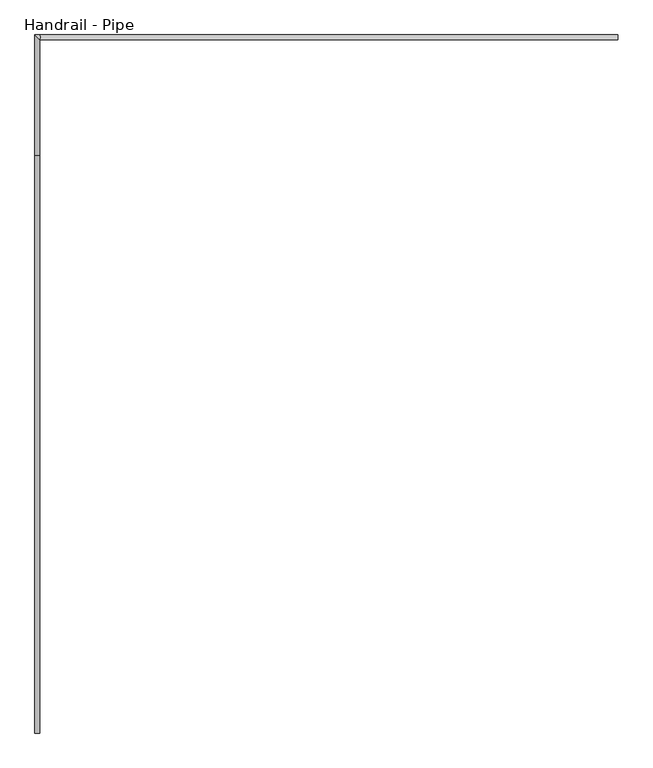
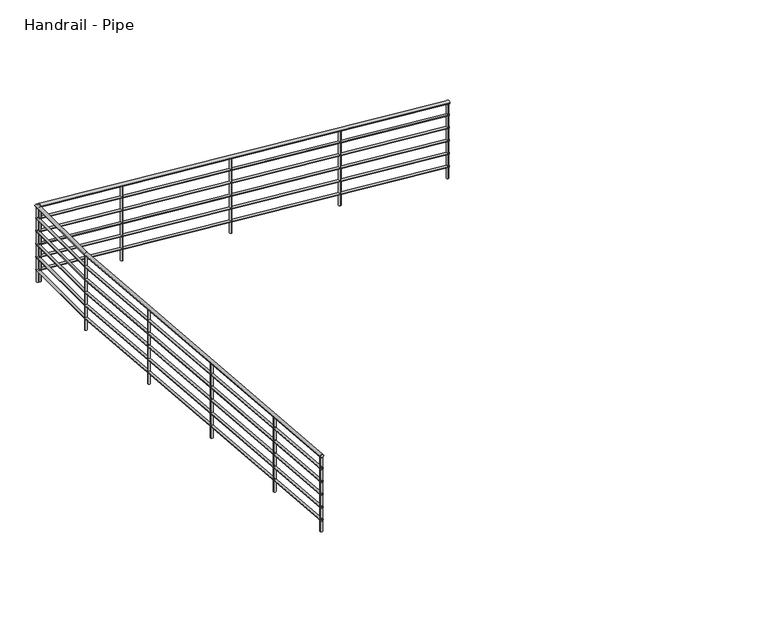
"""IFC4 building model written with IfcOpenShell, lengths in millimetres: railing geometry, Handrail - Pipe."""

from ifc_helpers import new_model, si_unit, point, frame, frame_2d, origin, place, context, project, spatial, circle_curve, ellipse_curve, trimmed, segment, composite_curve, outline, extrude, source, transform, mapped, element, save
from ifc_brep_helpers import plane_surface, cylinder_surface, advanced_brep


def handrail_pipe_39028d69(model_context):
    return source(origin(), model_context, "Body", "SolidModel", [
        advanced_brep(
        [(17900.9421922, 23237.4984382, 133.2839686), (17900.9421922, 23275.5984382, 133.2839686), (13328.1498155, 23275.5984382, 514.35), (13328.1498155, 23237.4984382, 514.35), (13284.4921922, 23275.5984382, 514.35), (13322.5921922, 23237.4984382, 514.35), (13284.4921922, 22320.8938342, 514.35), (13322.5921922, 22320.8938342, 514.35), (13322.5921922, 17749.6862109, 895.2839686), (13284.4921922, 17749.6862109, 895.2839686)],
        [
            (0, 1, ellipse_curve(frame((17900.9421922, 23256.5484382, 133.2839686), z_axis=(1.0, 0.0, 0.0), x_axis=(0.0, 0.0, -1.0)), 19.1160314, 19.05)),
            (1, 0, ellipse_curve(frame((17900.9421922, 23256.5484382, 133.2839686), z_axis=(1.0, 0.0, 0.0), x_axis=(0.0, 0.0, -1.0)), 19.1160314, 19.05)),
            (1, 2),
            (2, 3, ellipse_curve(frame((13328.1498155, 23256.5484382, 514.35), z_axis=(0.9991360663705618, 0.0, -0.04155864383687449), x_axis=(-0.04155864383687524, 0.0, -0.9991360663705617)), 19.0664722, 19.05)),
            (3, 0),
            (3, 2, ellipse_curve(frame((13328.1498155, 23256.5484382, 514.35), z_axis=(0.9991360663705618, 0.0, -0.04155864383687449), x_axis=(-0.04155864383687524, 0.0, -0.9991360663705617)), 19.0664722, 19.05)),
            (2, 4),
            (4, 5, ellipse_curve(frame((13303.5421922, 23256.5484382, 514.35), z_axis=(0.7071067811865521, 0.7071067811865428, 0.0), x_axis=(0.7071067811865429, -0.7071067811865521, 0.0)), 26.9407684, 19.05)),
            (5, 3),
            (5, 4, ellipse_curve(frame((13303.5421922, 23256.5484382, 514.35), z_axis=(0.7071067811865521, 0.7071067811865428, 0.0), x_axis=(0.7071067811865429, -0.7071067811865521, 0.0)), 26.9407684, 19.05)),
            (4, 6),
            (6, 7, ellipse_curve(frame((13303.5421922, 22320.8938342, 514.35), z_axis=(0.0, 0.9991360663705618, -0.04155864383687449), x_axis=(0.0, 0.04155864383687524, 0.9991360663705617)), 19.0664722, 19.05)),
            (7, 5),
            (7, 6, ellipse_curve(frame((13303.5421922, 22320.8938342, 514.35), z_axis=(0.0, 0.9991360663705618, -0.04155864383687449), x_axis=(0.0, 0.04155864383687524, 0.9991360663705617)), 19.0664722, 19.05)),
            (8, 9, ellipse_curve(frame((13303.5421922, 17749.6862109, 895.2839686), z_axis=(0.0, -1.0, 0.0), x_axis=(0.0, 0.0, -1.0)), 19.1160314, 19.05)),
            (9, 8, ellipse_curve(frame((13303.5421922, 17749.6862109, 895.2839686), z_axis=(0.0, -1.0, 0.0), x_axis=(0.0, 0.0, -1.0)), 19.1160314, 19.05)),
            (6, 9),
            (8, 7),
        ],
        [
            plane_surface(frame((17900.9421922, 23256.5484382, 152.4), z_axis=(1.0, 0.0, 0.0), x_axis=(0.0, -1.0, 0.0))),
            cylinder_surface(frame((17899.3601758, 23256.5484382, 133.4158033), z_axis=(0.9965457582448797, 0.0, -0.08304547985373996), x_axis=(0.0, 1.0, 0.0)), 19.05),
            cylinder_surface(frame((13328.9421922, 23256.5484382, 514.35), z_axis=(1.0, 0.0, 0.0), x_axis=(0.0, 1.0, 0.0)), 19.05),
            cylinder_surface(frame((13303.5421922, 23256.5484382, 514.35), z_axis=(0.0, 1.0, 0.0), x_axis=(-1.0, 0.0, 0.0)), 19.05),
            plane_surface(frame((13303.5421922, 17749.6862109, 914.4), z_axis=(0.0, -1.0, 0.0), x_axis=(0.0, 0.0, -1.0))),
            cylinder_surface(frame((13303.5421922, 22320.1041945, 514.4158033), z_axis=(0.0, 0.9965457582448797, -0.08304547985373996), x_axis=(-1.0, 0.0, 0.0)), 19.05),
        ],
        [
            (0, [[1, 2]]),
            (1, [[-2, 3, 4, 5]]),
            (1, [[-1, -5, 6, -3]]),
            (2, [[-4, 7, 8, 9]]),
            (2, [[-6, -9, 10, -7]]),
            (3, [[-8, 11, 12, 13]]),
            (3, [[-10, -13, 14, -11]]),
            (4, [[15, 16]]),
            (5, [[-12, 17, -15, 18]]),
            (5, [[-14, -18, -16, -17]]),
        ],
    ),
        advanced_brep(
        [(17900.9421922, 23243.8484382, -12.7440209), (17900.9421922, 23269.2484382, -12.7440209), (13328.413941, 23269.2484382, 368.3), (13328.413941, 23243.8484382, 368.3), (13290.8421922, 23269.2484382, 368.3), (13316.2421922, 23243.8484382, 368.3), (13290.8421922, 22321.1579598, 368.3), (13316.2421922, 22321.1579598, 368.3), (13316.2421922, 17749.6862109, 749.2559791), (13290.8421922, 17749.6862109, 749.2559791)],
        [
            (0, 1, ellipse_curve(frame((17900.9421922, 23256.5484382, -12.7440209), z_axis=(1.0, 0.0, 0.0), x_axis=(0.0, 0.0, -1.0)), 12.7440209, 12.7)),
            (1, 0, ellipse_curve(frame((17900.9421922, 23256.5484382, -12.7440209), z_axis=(1.0, 0.0, 0.0), x_axis=(0.0, 0.0, -1.0)), 12.7440209, 12.7)),
            (1, 2),
            (2, 3, ellipse_curve(frame((13328.413941, 23256.5484382, 368.3), z_axis=(0.9991360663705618, 0.0, -0.04155864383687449), x_axis=(-0.04155864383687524, 0.0, -0.9991360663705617)), 12.7109814, 12.7)),
            (3, 0),
            (3, 2, ellipse_curve(frame((13328.413941, 23256.5484382, 368.3), z_axis=(0.9991360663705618, 0.0, -0.04155864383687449), x_axis=(-0.04155864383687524, 0.0, -0.9991360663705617)), 12.7109814, 12.7)),
            (2, 4),
            (4, 5, ellipse_curve(frame((13303.5421922, 23256.5484382, 368.3), z_axis=(0.7071067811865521, 0.7071067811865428, 0.0), x_axis=(0.7071067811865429, -0.7071067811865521, 0.0)), 17.9605122, 12.7)),
            (5, 3),
            (5, 4, ellipse_curve(frame((13303.5421922, 23256.5484382, 368.3), z_axis=(0.7071067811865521, 0.7071067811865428, 0.0), x_axis=(0.7071067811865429, -0.7071067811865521, 0.0)), 17.9605122, 12.7)),
            (4, 6),
            (6, 7, ellipse_curve(frame((13303.5421922, 22321.1579598, 368.3), z_axis=(0.0, 0.9991360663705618, -0.04155864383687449), x_axis=(0.0, 0.04155864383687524, 0.9991360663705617)), 12.7109814, 12.7)),
            (7, 5),
            (7, 6, ellipse_curve(frame((13303.5421922, 22321.1579598, 368.3), z_axis=(0.0, 0.9991360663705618, -0.04155864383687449), x_axis=(0.0, 0.04155864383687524, 0.9991360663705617)), 12.7109814, 12.7)),
            (8, 9, ellipse_curve(frame((13303.5421922, 17749.6862109, 749.2559791), z_axis=(0.0, -1.0, 0.0), x_axis=(0.0, 0.0, -1.0)), 12.7440209, 12.7)),
            (9, 8, ellipse_curve(frame((13303.5421922, 17749.6862109, 749.2559791), z_axis=(0.0, -1.0, 0.0), x_axis=(0.0, 0.0, -1.0)), 12.7440209, 12.7)),
            (6, 9),
            (8, 7),
        ],
        [
            plane_surface(frame((17900.9421922, 23256.5484382, 0.0), z_axis=(1.0, 0.0, 0.0), x_axis=(0.0, -1.0, 0.0))),
            cylinder_surface(frame((17899.8875146, 23256.5484382, -12.6561311), z_axis=(0.9965457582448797, 0.0, -0.08304547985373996), x_axis=(0.0, 1.0, 0.0)), 12.7),
            cylinder_surface(frame((13328.9421922, 23256.5484382, 368.3), z_axis=(1.0, 0.0, 0.0), x_axis=(0.0, 1.0, 0.0)), 12.7),
            cylinder_surface(frame((13303.5421922, 23256.5484382, 368.3), z_axis=(0.0, 1.0, 0.0), x_axis=(-1.0, 0.0, 0.0)), 12.7),
            plane_surface(frame((13303.5421922, 17749.6862109, 762.0), z_axis=(0.0, -1.0, 0.0), x_axis=(0.0, 0.0, -1.0))),
            cylinder_surface(frame((13303.5421922, 22320.6315333, 368.3438689), z_axis=(0.0, 0.9965457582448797, -0.08304547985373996), x_axis=(-1.0, 0.0, 0.0)), 12.7),
        ],
        [
            (0, [[1, 2]]),
            (1, [[-2, 3, 4, 5]]),
            (1, [[-1, -5, 6, -3]]),
            (2, [[-4, 7, 8, 9]]),
            (2, [[-6, -9, 10, -7]]),
            (3, [[-8, 11, 12, 13]]),
            (3, [[-10, -13, 14, -11]]),
            (4, [[15, 16]]),
            (5, [[-12, 17, -15, 18]]),
            (5, [[-14, -18, -16, -17]]),
        ],
    ),
        advanced_brep(
        [(17900.9421922, 23243.8484382, -165.1440209), (17900.9421922, 23269.2484382, -165.1440209), (13328.413941, 23269.2484382, 215.9), (13328.413941, 23243.8484382, 215.9), (13290.8421922, 23269.2484382, 215.9), (13316.2421922, 23243.8484382, 215.9), (13290.8421922, 22321.1579598, 215.9), (13316.2421922, 22321.1579598, 215.9), (13316.2421922, 17749.6862109, 596.8559791), (13290.8421922, 17749.6862109, 596.8559791)],
        [
            (0, 1, ellipse_curve(frame((17900.9421922, 23256.5484382, -165.1440209), z_axis=(1.0, 0.0, 0.0), x_axis=(0.0, 0.0, -1.0)), 12.7440209, 12.7)),
            (1, 0, ellipse_curve(frame((17900.9421922, 23256.5484382, -165.1440209), z_axis=(1.0, 0.0, 0.0), x_axis=(0.0, 0.0, -1.0)), 12.7440209, 12.7)),
            (1, 2),
            (2, 3, ellipse_curve(frame((13328.413941, 23256.5484382, 215.9), z_axis=(0.9991360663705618, 0.0, -0.04155864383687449), x_axis=(-0.04155864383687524, 0.0, -0.9991360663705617)), 12.7109814, 12.7)),
            (3, 0),
            (3, 2, ellipse_curve(frame((13328.413941, 23256.5484382, 215.9), z_axis=(0.9991360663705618, 0.0, -0.04155864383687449), x_axis=(-0.04155864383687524, 0.0, -0.9991360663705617)), 12.7109814, 12.7)),
            (2, 4),
            (4, 5, ellipse_curve(frame((13303.5421922, 23256.5484382, 215.9), z_axis=(0.7071067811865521, 0.7071067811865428, 0.0), x_axis=(0.7071067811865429, -0.7071067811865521, 0.0)), 17.9605122, 12.7)),
            (5, 3),
            (5, 4, ellipse_curve(frame((13303.5421922, 23256.5484382, 215.9), z_axis=(0.7071067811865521, 0.7071067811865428, 0.0), x_axis=(0.7071067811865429, -0.7071067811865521, 0.0)), 17.9605122, 12.7)),
            (4, 6),
            (6, 7, ellipse_curve(frame((13303.5421922, 22321.1579598, 215.9), z_axis=(0.0, 0.9991360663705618, -0.04155864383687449), x_axis=(0.0, 0.04155864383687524, 0.9991360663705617)), 12.7109814, 12.7)),
            (7, 5),
            (7, 6, ellipse_curve(frame((13303.5421922, 22321.1579598, 215.9), z_axis=(0.0, 0.9991360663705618, -0.04155864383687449), x_axis=(0.0, 0.04155864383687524, 0.9991360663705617)), 12.7109814, 12.7)),
            (8, 9, ellipse_curve(frame((13303.5421922, 17749.6862109, 596.8559791), z_axis=(0.0, -1.0, 0.0), x_axis=(0.0, 0.0, -1.0)), 12.7440209, 12.7)),
            (9, 8, ellipse_curve(frame((13303.5421922, 17749.6862109, 596.8559791), z_axis=(0.0, -1.0, 0.0), x_axis=(0.0, 0.0, -1.0)), 12.7440209, 12.7)),
            (6, 9),
            (8, 7),
        ],
        [
            plane_surface(frame((17900.9421922, 23256.5484382, -152.4), z_axis=(1.0, 0.0, 0.0), x_axis=(0.0, -1.0, 0.0))),
            cylinder_surface(frame((17899.8875146, 23256.5484382, -165.0561311), z_axis=(0.9965457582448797, 0.0, -0.08304547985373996), x_axis=(0.0, 1.0, 0.0)), 12.7),
            cylinder_surface(frame((13328.9421922, 23256.5484382, 215.9), z_axis=(1.0, 0.0, 0.0), x_axis=(0.0, 1.0, 0.0)), 12.7),
            cylinder_surface(frame((13303.5421922, 23256.5484382, 215.9), z_axis=(0.0, 1.0, 0.0), x_axis=(-1.0, 0.0, 0.0)), 12.7),
            plane_surface(frame((13303.5421922, 17749.6862109, 609.6), z_axis=(0.0, -1.0, 0.0), x_axis=(0.0, 0.0, -1.0))),
            cylinder_surface(frame((13303.5421922, 22320.6315333, 215.9438689), z_axis=(0.0, 0.9965457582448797, -0.08304547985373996), x_axis=(-1.0, 0.0, 0.0)), 12.7),
        ],
        [
            (0, [[1, 2]]),
            (1, [[-2, 3, 4, 5]]),
            (1, [[-1, -5, 6, -3]]),
            (2, [[-4, 7, 8, 9]]),
            (2, [[-6, -9, 10, -7]]),
            (3, [[-8, 11, 12, 13]]),
            (3, [[-10, -13, 14, -11]]),
            (4, [[15, 16]]),
            (5, [[-12, 17, -15, 18]]),
            (5, [[-14, -18, -16, -17]]),
        ],
    ),
        advanced_brep(
        [(17900.9421922, 23243.8484382, -317.5440209), (17900.9421922, 23269.2484382, -317.5440209), (13328.413941, 23269.2484382, 63.5), (13328.413941, 23243.8484382, 63.5), (13290.8421922, 23269.2484382, 63.5), (13316.2421922, 23243.8484382, 63.5), (13290.8421922, 22321.1579598, 63.5), (13316.2421922, 22321.1579598, 63.5), (13316.2421922, 17749.6862109, 444.4559791), (13290.8421922, 17749.6862109, 444.4559791)],
        [
            (0, 1, ellipse_curve(frame((17900.9421922, 23256.5484382, -317.5440209), z_axis=(1.0, 0.0, 0.0), x_axis=(0.0, 0.0, -1.0)), 12.7440209, 12.7)),
            (1, 0, ellipse_curve(frame((17900.9421922, 23256.5484382, -317.5440209), z_axis=(1.0, 0.0, 0.0), x_axis=(0.0, 0.0, -1.0)), 12.7440209, 12.7)),
            (1, 2),
            (2, 3, ellipse_curve(frame((13328.413941, 23256.5484382, 63.5), z_axis=(0.9991360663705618, 0.0, -0.04155864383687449), x_axis=(-0.04155864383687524, 0.0, -0.9991360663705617)), 12.7109814, 12.7)),
            (3, 0),
            (3, 2, ellipse_curve(frame((13328.413941, 23256.5484382, 63.5), z_axis=(0.9991360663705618, 0.0, -0.04155864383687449), x_axis=(-0.04155864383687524, 0.0, -0.9991360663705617)), 12.7109814, 12.7)),
            (2, 4),
            (4, 5, ellipse_curve(frame((13303.5421922, 23256.5484382, 63.5), z_axis=(0.7071067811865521, 0.7071067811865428, 0.0), x_axis=(0.7071067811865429, -0.7071067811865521, 0.0)), 17.9605122, 12.7)),
            (5, 3),
            (5, 4, ellipse_curve(frame((13303.5421922, 23256.5484382, 63.5), z_axis=(0.7071067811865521, 0.7071067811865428, 0.0), x_axis=(0.7071067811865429, -0.7071067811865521, 0.0)), 17.9605122, 12.7)),
            (4, 6),
            (6, 7, ellipse_curve(frame((13303.5421922, 22321.1579598, 63.5), z_axis=(0.0, 0.9991360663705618, -0.04155864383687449), x_axis=(0.0, 0.04155864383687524, 0.9991360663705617)), 12.7109814, 12.7)),
            (7, 5),
            (7, 6, ellipse_curve(frame((13303.5421922, 22321.1579598, 63.5), z_axis=(0.0, 0.9991360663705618, -0.04155864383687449), x_axis=(0.0, 0.04155864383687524, 0.9991360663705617)), 12.7109814, 12.7)),
            (8, 9, ellipse_curve(frame((13303.5421922, 17749.6862109, 444.4559791), z_axis=(0.0, -1.0, 0.0), x_axis=(0.0, 0.0, -1.0)), 12.7440209, 12.7)),
            (9, 8, ellipse_curve(frame((13303.5421922, 17749.6862109, 444.4559791), z_axis=(0.0, -1.0, 0.0), x_axis=(0.0, 0.0, -1.0)), 12.7440209, 12.7)),
            (6, 9),
            (8, 7),
        ],
        [
            plane_surface(frame((17900.9421922, 23256.5484382, -304.8), z_axis=(1.0, 0.0, 0.0), x_axis=(0.0, -1.0, 0.0))),
            cylinder_surface(frame((17899.8875146, 23256.5484382, -317.4561311), z_axis=(0.9965457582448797, 0.0, -0.08304547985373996), x_axis=(0.0, 1.0, 0.0)), 12.7),
            cylinder_surface(frame((13328.9421922, 23256.5484382, 63.5), z_axis=(1.0, 0.0, 0.0), x_axis=(0.0, 1.0, 0.0)), 12.7),
            cylinder_surface(frame((13303.5421922, 23256.5484382, 63.5), z_axis=(0.0, 1.0, 0.0), x_axis=(-1.0, 0.0, 0.0)), 12.7),
            plane_surface(frame((13303.5421922, 17749.6862109, 457.2), z_axis=(0.0, -1.0, 0.0), x_axis=(0.0, 0.0, -1.0))),
            cylinder_surface(frame((13303.5421922, 22320.6315333, 63.5438689), z_axis=(0.0, 0.9965457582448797, -0.08304547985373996), x_axis=(-1.0, 0.0, 0.0)), 12.7),
        ],
        [
            (0, [[1, 2]]),
            (1, [[-2, 3, 4, 5]]),
            (1, [[-1, -5, 6, -3]]),
            (2, [[-4, 7, 8, 9]]),
            (2, [[-6, -9, 10, -7]]),
            (3, [[-8, 11, 12, 13]]),
            (3, [[-10, -13, 14, -11]]),
            (4, [[15, 16]]),
            (5, [[-12, 17, -15, 18]]),
            (5, [[-14, -18, -16, -17]]),
        ],
    ),
        advanced_brep(
        [(17900.9421922, 23243.8484382, -469.9440209), (17900.9421922, 23269.2484382, -469.9440209), (13328.413941, 23269.2484382, -88.9), (13328.413941, 23243.8484382, -88.9), (13290.8421922, 23269.2484382, -88.9), (13316.2421922, 23243.8484382, -88.9), (13290.8421922, 22321.1579598, -88.9), (13316.2421922, 22321.1579598, -88.9), (13316.2421922, 17749.6862109, 292.0559791), (13290.8421922, 17749.6862109, 292.0559791)],
        [
            (0, 1, ellipse_curve(frame((17900.9421922, 23256.5484382, -469.9440209), z_axis=(1.0, 0.0, 0.0), x_axis=(0.0, 0.0, -1.0)), 12.7440209, 12.7)),
            (1, 0, ellipse_curve(frame((17900.9421922, 23256.5484382, -469.9440209), z_axis=(1.0, 0.0, 0.0), x_axis=(0.0, 0.0, -1.0)), 12.7440209, 12.7)),
            (1, 2),
            (2, 3, ellipse_curve(frame((13328.413941, 23256.5484382, -88.9), z_axis=(0.9991360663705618, 0.0, -0.04155864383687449), x_axis=(-0.04155864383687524, 0.0, -0.9991360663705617)), 12.7109814, 12.7)),
            (3, 0),
            (3, 2, ellipse_curve(frame((13328.413941, 23256.5484382, -88.9), z_axis=(0.9991360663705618, 0.0, -0.04155864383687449), x_axis=(-0.04155864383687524, 0.0, -0.9991360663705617)), 12.7109814, 12.7)),
            (2, 4),
            (4, 5, ellipse_curve(frame((13303.5421922, 23256.5484382, -88.9), z_axis=(0.7071067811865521, 0.7071067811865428, 0.0), x_axis=(0.7071067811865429, -0.7071067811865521, 0.0)), 17.9605122, 12.7)),
            (5, 3),
            (5, 4, ellipse_curve(frame((13303.5421922, 23256.5484382, -88.9), z_axis=(0.7071067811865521, 0.7071067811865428, 0.0), x_axis=(0.7071067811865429, -0.7071067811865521, 0.0)), 17.9605122, 12.7)),
            (4, 6),
            (6, 7, ellipse_curve(frame((13303.5421922, 22321.1579598, -88.9), z_axis=(0.0, 0.9991360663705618, -0.04155864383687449), x_axis=(0.0, 0.04155864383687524, 0.9991360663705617)), 12.7109814, 12.7)),
            (7, 5),
            (7, 6, ellipse_curve(frame((13303.5421922, 22321.1579598, -88.9), z_axis=(0.0, 0.9991360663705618, -0.04155864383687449), x_axis=(0.0, 0.04155864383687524, 0.9991360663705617)), 12.7109814, 12.7)),
            (8, 9, ellipse_curve(frame((13303.5421922, 17749.6862109, 292.0559791), z_axis=(0.0, -1.0, 0.0), x_axis=(0.0, 0.0, -1.0)), 12.7440209, 12.7)),
            (9, 8, ellipse_curve(frame((13303.5421922, 17749.6862109, 292.0559791), z_axis=(0.0, -1.0, 0.0), x_axis=(0.0, 0.0, -1.0)), 12.7440209, 12.7)),
            (6, 9),
            (8, 7),
        ],
        [
            plane_surface(frame((17900.9421922, 23256.5484382, -457.2), z_axis=(1.0, 0.0, 0.0), x_axis=(0.0, -1.0, 0.0))),
            cylinder_surface(frame((17899.8875146, 23256.5484382, -469.8561311), z_axis=(0.9965457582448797, 0.0, -0.08304547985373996), x_axis=(0.0, 1.0, 0.0)), 12.7),
            cylinder_surface(frame((13328.9421922, 23256.5484382, -88.9), z_axis=(1.0, 0.0, 0.0), x_axis=(0.0, 1.0, 0.0)), 12.7),
            cylinder_surface(frame((13303.5421922, 23256.5484382, -88.9), z_axis=(0.0, 1.0, 0.0), x_axis=(-1.0, 0.0, 0.0)), 12.7),
            plane_surface(frame((13303.5421922, 17749.6862109, 304.8), z_axis=(0.0, -1.0, 0.0), x_axis=(0.0, 0.0, -1.0))),
            cylinder_surface(frame((13303.5421922, 22320.6315333, -88.8561311), z_axis=(0.0, 0.9965457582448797, -0.08304547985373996), x_axis=(-1.0, 0.0, 0.0)), 12.7),
        ],
        [
            (0, [[1, 2]]),
            (1, [[-2, 3, 4, 5]]),
            (1, [[-1, -5, 6, -3]]),
            (2, [[-4, 7, 8, 9]]),
            (2, [[-6, -9, 10, -7]]),
            (3, [[-8, 11, 12, 13]]),
            (3, [[-10, -13, 14, -11]]),
            (4, [[15, 16]]),
            (5, [[-12, 17, -15, 18]]),
            (5, [[-14, -18, -16, -17]]),
        ],
    ),
        advanced_brep(
        [(17900.9421922, 23243.8484382, -622.3440209), (17900.9421922, 23269.2484382, -622.3440209), (13328.413941, 23269.2484382, -241.3), (13328.413941, 23243.8484382, -241.3), (13290.8421922, 23269.2484382, -241.3), (13316.2421922, 23243.8484382, -241.3), (13290.8421922, 22321.1579598, -241.3), (13316.2421922, 22321.1579598, -241.3), (13316.2421922, 17749.6862109, 139.6559791), (13290.8421922, 17749.6862109, 139.6559791)],
        [
            (0, 1, ellipse_curve(frame((17900.9421922, 23256.5484382, -622.3440209), z_axis=(1.0, 0.0, 0.0), x_axis=(0.0, 0.0, -1.0)), 12.7440209, 12.7)),
            (1, 0, ellipse_curve(frame((17900.9421922, 23256.5484382, -622.3440209), z_axis=(1.0, 0.0, 0.0), x_axis=(0.0, 0.0, -1.0)), 12.7440209, 12.7)),
            (1, 2),
            (2, 3, ellipse_curve(frame((13328.413941, 23256.5484382, -241.3), z_axis=(0.9991360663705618, 0.0, -0.04155864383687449), x_axis=(-0.04155864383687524, 0.0, -0.9991360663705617)), 12.7109814, 12.7)),
            (3, 0),
            (3, 2, ellipse_curve(frame((13328.413941, 23256.5484382, -241.3), z_axis=(0.9991360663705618, 0.0, -0.04155864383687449), x_axis=(-0.04155864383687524, 0.0, -0.9991360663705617)), 12.7109814, 12.7)),
            (2, 4),
            (4, 5, ellipse_curve(frame((13303.5421922, 23256.5484382, -241.3), z_axis=(0.7071067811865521, 0.7071067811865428, 0.0), x_axis=(0.7071067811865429, -0.7071067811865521, 0.0)), 17.9605122, 12.7)),
            (5, 3),
            (5, 4, ellipse_curve(frame((13303.5421922, 23256.5484382, -241.3), z_axis=(0.7071067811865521, 0.7071067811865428, 0.0), x_axis=(0.7071067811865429, -0.7071067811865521, 0.0)), 17.9605122, 12.7)),
            (4, 6),
            (6, 7, ellipse_curve(frame((13303.5421922, 22321.1579598, -241.3), z_axis=(0.0, 0.9991360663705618, -0.04155864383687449), x_axis=(0.0, 0.04155864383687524, 0.9991360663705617)), 12.7109814, 12.7)),
            (7, 5),
            (7, 6, ellipse_curve(frame((13303.5421922, 22321.1579598, -241.3), z_axis=(0.0, 0.9991360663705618, -0.04155864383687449), x_axis=(0.0, 0.04155864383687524, 0.9991360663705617)), 12.7109814, 12.7)),
            (8, 9, ellipse_curve(frame((13303.5421922, 17749.6862109, 139.6559791), z_axis=(0.0, -1.0, 0.0), x_axis=(0.0, 0.0, -1.0)), 12.7440209, 12.7)),
            (9, 8, ellipse_curve(frame((13303.5421922, 17749.6862109, 139.6559791), z_axis=(0.0, -1.0, 0.0), x_axis=(0.0, 0.0, -1.0)), 12.7440209, 12.7)),
            (6, 9),
            (8, 7),
        ],
        [
            plane_surface(frame((17900.9421922, 23256.5484382, -609.6), z_axis=(1.0, 0.0, 0.0), x_axis=(0.0, -1.0, 0.0))),
            cylinder_surface(frame((17899.8875146, 23256.5484382, -622.2561311), z_axis=(0.9965457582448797, 0.0, -0.08304547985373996), x_axis=(0.0, 1.0, 0.0)), 12.7),
            cylinder_surface(frame((13328.9421922, 23256.5484382, -241.3), z_axis=(1.0, 0.0, 0.0), x_axis=(0.0, 1.0, 0.0)), 12.7),
            cylinder_surface(frame((13303.5421922, 23256.5484382, -241.3), z_axis=(0.0, 1.0, 0.0), x_axis=(-1.0, 0.0, 0.0)), 12.7),
            plane_surface(frame((13303.5421922, 17749.6862109, 152.4), z_axis=(0.0, -1.0, 0.0), x_axis=(0.0, 0.0, -1.0))),
            cylinder_surface(frame((13303.5421922, 22320.6315333, -241.2561311), z_axis=(0.0, 0.9965457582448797, -0.08304547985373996), x_axis=(-1.0, 0.0, 0.0)), 12.7),
        ],
        [
            (0, [[1, 2]]),
            (1, [[-2, 3, 4, 5]]),
            (1, [[-1, -5, 6, -3]]),
            (2, [[-4, 7, 8, 9]]),
            (2, [[-6, -9, 10, -7]]),
            (3, [[-8, 11, 12, 13]]),
            (3, [[-10, -13, 14, -11]]),
            (4, [[15, 16]]),
            (5, [[-12, 17, -15, 18]]),
            (5, [[-14, -18, -16, -17]]),
        ],
    ),
        advanced_brep(
        [(13290.8421922, 18664.0862109, 799.9679372), (13290.8421922, 18664.0862109, -76.2), (13316.2421922, 18664.0862109, -76.2), (13316.2421922, 18664.0862109, 799.9679372)],
        [
            (0, 1),
            (1, 2, ellipse_curve(frame((13303.5421922, 18664.0862109, -76.2), z_axis=(0.0, 0.08304547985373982, 0.9965457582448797), x_axis=(0.0, -0.9965457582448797, 0.08304547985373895)), 12.7440209, 12.7)),
            (2, 3),
            (3, 0, ellipse_curve(frame((13303.5421922, 18664.0862109, 799.9679372), z_axis=(0.0, -0.08304547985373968, -0.9965457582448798), x_axis=(0.0, -0.9965457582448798, 0.08304547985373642)), 12.7440209, 12.7)),
            (0, 3, ellipse_curve(frame((13303.5421922, 18664.0862109, 799.9679372), z_axis=(0.0, -0.08304547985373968, -0.9965457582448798), x_axis=(0.0, -0.9965457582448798, 0.08304547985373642)), 12.7440209, 12.7)),
            (2, 1, ellipse_curve(frame((13303.5421922, 18664.0862109, -76.2), z_axis=(0.0, 0.08304547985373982, 0.9965457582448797), x_axis=(0.0, -0.9965457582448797, 0.08304547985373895)), 12.7440209, 12.7)),
        ],
        [
            cylinder_surface(frame((13303.5421922, 18664.0862109, -304.8), z_axis=(0.0, 0.0, 1.0), x_axis=(1.0, 0.0, 0.0)), 12.7),
            plane_surface(frame((13328.9421922, 18638.6862109, 802.0846039), z_axis=(0.0, 0.08304547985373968, 0.9965457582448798), x_axis=(-1.0, 0.0, 0.0))),
            plane_surface(frame((13328.9421922, 18689.4862109, -78.3166667), z_axis=(0.0, -0.08304547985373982, -0.9965457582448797), x_axis=(-1.0, 0.0, 0.0))),
        ],
        [
            (0, [[1, 2, 3, 4]]),
            (0, [[-1, 5, -3, 6]]),
            (1, [[-4, -5]]),
            (2, [[-2, -6]]),
        ],
    ),
        advanced_brep(
        [(13290.8421922, 19883.2862109, 698.3679372), (13290.8421922, 19883.2862109, -177.8), (13316.2421922, 19883.2862109, -177.8), (13316.2421922, 19883.2862109, 698.3679372)],
        [
            (0, 1),
            (1, 2, ellipse_curve(frame((13303.5421922, 19883.2862109, -177.8), z_axis=(0.0, 0.08304547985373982, 0.9965457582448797), x_axis=(0.0, -0.9965457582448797, 0.08304547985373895)), 12.7440209, 12.7)),
            (2, 3),
            (3, 0, ellipse_curve(frame((13303.5421922, 19883.2862109, 698.3679372), z_axis=(0.0, -0.08304547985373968, -0.9965457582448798), x_axis=(0.0, -0.9965457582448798, 0.08304547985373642)), 12.7440209, 12.7)),
            (0, 3, ellipse_curve(frame((13303.5421922, 19883.2862109, 698.3679372), z_axis=(0.0, -0.08304547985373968, -0.9965457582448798), x_axis=(0.0, -0.9965457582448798, 0.08304547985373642)), 12.7440209, 12.7)),
            (2, 1, ellipse_curve(frame((13303.5421922, 19883.2862109, -177.8), z_axis=(0.0, 0.08304547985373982, 0.9965457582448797), x_axis=(0.0, -0.9965457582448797, 0.08304547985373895)), 12.7440209, 12.7)),
        ],
        [
            cylinder_surface(frame((13303.5421922, 19883.2862109, -406.4), z_axis=(0.0, 0.0, 1.0), x_axis=(1.0, 0.0, 0.0)), 12.7),
            plane_surface(frame((13328.9421922, 19857.8862109, 700.4846039), z_axis=(0.0, 0.08304547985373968, 0.9965457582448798), x_axis=(-1.0, 0.0, 0.0))),
            plane_surface(frame((13328.9421922, 19908.6862109, -179.9166667), z_axis=(0.0, -0.08304547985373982, -0.9965457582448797), x_axis=(-1.0, 0.0, 0.0))),
        ],
        [
            (0, [[1, 2, 3, 4]]),
            (0, [[-1, 5, -3, 6]]),
            (1, [[-4, -5]]),
            (2, [[-2, -6]]),
        ],
    ),
        advanced_brep(
        [(13290.8421922, 21102.4862109, 596.7679372), (13290.8421922, 21102.4862109, -279.4), (13316.2421922, 21102.4862109, -279.4), (13316.2421922, 21102.4862109, 596.7679372)],
        [
            (0, 1),
            (1, 2, ellipse_curve(frame((13303.5421922, 21102.4862109, -279.4), z_axis=(0.0, 0.08304547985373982, 0.9965457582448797), x_axis=(0.0, -0.9965457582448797, 0.08304547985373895)), 12.7440209, 12.7)),
            (2, 3),
            (3, 0, ellipse_curve(frame((13303.5421922, 21102.4862109, 596.7679372), z_axis=(0.0, -0.08304547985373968, -0.9965457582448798), x_axis=(0.0, -0.9965457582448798, 0.08304547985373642)), 12.7440209, 12.7)),
            (0, 3, ellipse_curve(frame((13303.5421922, 21102.4862109, 596.7679372), z_axis=(0.0, -0.08304547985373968, -0.9965457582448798), x_axis=(0.0, -0.9965457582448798, 0.08304547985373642)), 12.7440209, 12.7)),
            (2, 1, ellipse_curve(frame((13303.5421922, 21102.4862109, -279.4), z_axis=(0.0, 0.08304547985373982, 0.9965457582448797), x_axis=(0.0, -0.9965457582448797, 0.08304547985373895)), 12.7440209, 12.7)),
        ],
        [
            cylinder_surface(frame((13303.5421922, 21102.4862109, -508.0), z_axis=(0.0, 0.0, 1.0), x_axis=(1.0, 0.0, 0.0)), 12.7),
            plane_surface(frame((13328.9421922, 21077.0862109, 598.8846039), z_axis=(0.0, 0.08304547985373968, 0.9965457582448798), x_axis=(-1.0, 0.0, 0.0))),
            plane_surface(frame((13328.9421922, 21127.8862109, -281.5166667), z_axis=(0.0, -0.08304547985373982, -0.9965457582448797), x_axis=(-1.0, 0.0, 0.0))),
        ],
        [
            (0, [[1, 2, 3, 4]]),
            (0, [[-1, 5, -3, 6]]),
            (1, [[-4, -5]]),
            (2, [[-2, -6]]),
        ],
    ),
        advanced_brep(
        [(14243.3421922, 23269.2484382, 418.9679372), (14243.3421922, 23269.2484382, -457.2), (14243.3421922, 23243.8484382, -457.2), (14243.3421922, 23243.8484382, 418.9679372)],
        [
            (0, 1),
            (1, 2, ellipse_curve(frame((14243.3421922, 23256.5484382, -457.2), z_axis=(0.08304547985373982, 0.0, 0.9965457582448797), x_axis=(-0.9965457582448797, 0.0, 0.08304547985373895)), 12.7440209, 12.7)),
            (2, 3),
            (3, 0, ellipse_curve(frame((14243.3421922, 23256.5484382, 418.9679372), z_axis=(-0.08304547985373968, 0.0, -0.9965457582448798), x_axis=(-0.9965457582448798, 0.0, 0.08304547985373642)), 12.7440209, 12.7)),
            (0, 3, ellipse_curve(frame((14243.3421922, 23256.5484382, 418.9679372), z_axis=(-0.08304547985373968, 0.0, -0.9965457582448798), x_axis=(-0.9965457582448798, 0.0, 0.08304547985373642)), 12.7440209, 12.7)),
            (2, 1, ellipse_curve(frame((14243.3421922, 23256.5484382, -457.2), z_axis=(0.08304547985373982, 0.0, 0.9965457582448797), x_axis=(-0.9965457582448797, 0.0, 0.08304547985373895)), 12.7440209, 12.7)),
        ],
        [
            cylinder_surface(frame((14243.3421922, 23256.5484382, -685.8), z_axis=(0.0, 0.0, 1.0), x_axis=(0.0, -1.0, 0.0)), 12.7),
            plane_surface(frame((14217.9421922, 23231.1484382, 421.0846039), z_axis=(0.08304547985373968, 0.0, 0.9965457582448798), x_axis=(0.0, 1.0, 0.0))),
            plane_surface(frame((14268.7421922, 23231.1484382, -459.3166667), z_axis=(-0.08304547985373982, 0.0, -0.9965457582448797), x_axis=(0.0, 1.0, 0.0))),
        ],
        [
            (0, [[1, 2, 3, 4]]),
            (0, [[-1, 5, -3, 6]]),
            (1, [[-4, -5]]),
            (2, [[-2, -6]]),
        ],
    ),
        advanced_brep(
        [(15462.5421922, 23269.2484382, 317.3679372), (15462.5421922, 23269.2484382, -558.8), (15462.5421922, 23243.8484382, -558.8), (15462.5421922, 23243.8484382, 317.3679372)],
        [
            (0, 1),
            (1, 2, ellipse_curve(frame((15462.5421922, 23256.5484382, -558.8), z_axis=(0.08304547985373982, 0.0, 0.9965457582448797), x_axis=(-0.9965457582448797, 0.0, 0.08304547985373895)), 12.7440209, 12.7)),
            (2, 3),
            (3, 0, ellipse_curve(frame((15462.5421922, 23256.5484382, 317.3679372), z_axis=(-0.08304547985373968, 0.0, -0.9965457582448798), x_axis=(-0.9965457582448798, 0.0, 0.08304547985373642)), 12.7440209, 12.7)),
            (0, 3, ellipse_curve(frame((15462.5421922, 23256.5484382, 317.3679372), z_axis=(-0.08304547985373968, 0.0, -0.9965457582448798), x_axis=(-0.9965457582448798, 0.0, 0.08304547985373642)), 12.7440209, 12.7)),
            (2, 1, ellipse_curve(frame((15462.5421922, 23256.5484382, -558.8), z_axis=(0.08304547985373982, 0.0, 0.9965457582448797), x_axis=(-0.9965457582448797, 0.0, 0.08304547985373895)), 12.7440209, 12.7)),
        ],
        [
            cylinder_surface(frame((15462.5421922, 23256.5484382, -787.4), z_axis=(0.0, 0.0, 1.0), x_axis=(0.0, -1.0, 0.0)), 12.7),
            plane_surface(frame((15437.1421922, 23231.1484382, 319.4846039), z_axis=(0.08304547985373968, 0.0, 0.9965457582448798), x_axis=(0.0, 1.0, 0.0))),
            plane_surface(frame((15487.9421922, 23231.1484382, -560.9166667), z_axis=(-0.08304547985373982, 0.0, -0.9965457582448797), x_axis=(0.0, 1.0, 0.0))),
        ],
        [
            (0, [[1, 2, 3, 4]]),
            (0, [[-1, 5, -3, 6]]),
            (1, [[-4, -5]]),
            (2, [[-2, -6]]),
        ],
    ),
        advanced_brep(
        [(16681.7421922, 23269.2484382, 215.7679372), (16681.7421922, 23269.2484382, -660.4), (16681.7421922, 23243.8484382, -660.4), (16681.7421922, 23243.8484382, 215.7679372)],
        [
            (0, 1),
            (1, 2, ellipse_curve(frame((16681.7421922, 23256.5484382, -660.4), z_axis=(0.08304547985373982, 0.0, 0.9965457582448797), x_axis=(-0.9965457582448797, 0.0, 0.08304547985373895)), 12.7440209, 12.7)),
            (2, 3),
            (3, 0, ellipse_curve(frame((16681.7421922, 23256.5484382, 215.7679372), z_axis=(-0.08304547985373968, 0.0, -0.9965457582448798), x_axis=(-0.9965457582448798, 0.0, 0.08304547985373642)), 12.7440209, 12.7)),
            (0, 3, ellipse_curve(frame((16681.7421922, 23256.5484382, 215.7679372), z_axis=(-0.08304547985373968, 0.0, -0.9965457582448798), x_axis=(-0.9965457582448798, 0.0, 0.08304547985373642)), 12.7440209, 12.7)),
            (2, 1, ellipse_curve(frame((16681.7421922, 23256.5484382, -660.4), z_axis=(0.08304547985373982, 0.0, 0.9965457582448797), x_axis=(-0.9965457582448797, 0.0, 0.08304547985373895)), 12.7440209, 12.7)),
        ],
        [
            cylinder_surface(frame((16681.7421922, 23256.5484382, -889.0), z_axis=(0.0, 0.0, 1.0), x_axis=(0.0, -1.0, 0.0)), 12.7),
            plane_surface(frame((16656.3421922, 23231.1484382, 217.8846039), z_axis=(0.08304547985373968, 0.0, 0.9965457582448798), x_axis=(0.0, 1.0, 0.0))),
            plane_surface(frame((16707.1421922, 23231.1484382, -662.5166667), z_axis=(-0.08304547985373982, 0.0, -0.9965457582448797), x_axis=(0.0, 1.0, 0.0))),
        ],
        [
            (0, [[1, 2, 3, 4]]),
            (0, [[-1, 5, -3, 6]]),
            (1, [[-4, -5]]),
            (2, [[-2, -6]]),
        ],
    ),
        extrude(outline(composite_curve([segment(trimmed(circle_curve(frame_2d((13303.5421922, 22321.6862109)), 12.7), [point((13316.2421922, 22321.6862109))], [point((13290.8421922, 22321.6862109))], False, "CARTESIAN"), True, "CONTINUOUS"), segment(trimmed(circle_curve(frame_2d((13303.5421922, 22321.6862109)), 12.7), [point((13290.8421922, 22321.6862109))], [point((13316.2421922, 22321.6862109))], False, "CARTESIAN"), True, "CONTINUOUS")], self_intersect=False)), frame((0.0, 0.0, -381.0), z_axis=(0.0, 0.0, 1.0), x_axis=(1.0, 0.0, 0.0)), (0.0, 0.0, 1.0), 876.3),
        extrude(outline(composite_curve([segment(trimmed(circle_curve(frame_2d((13303.5421922, 23256.5484382)), 12.7), [point((13303.5421922, 23243.8484382))], [point((13303.5421922, 23269.2484382))], False, "CARTESIAN"), True, "CONTINUOUS"), segment(trimmed(circle_curve(frame_2d((13303.5421922, 23256.5484382)), 12.7), [point((13303.5421922, 23269.2484382))], [point((13303.5421922, 23243.8484382))], False, "CARTESIAN"), True, "CONTINUOUS")], self_intersect=False)), frame((0.0, 0.0, -381.0), z_axis=(0.0, 0.0, 1.0), x_axis=(1.0, 0.0, 0.0)), (0.0, 0.0, 1.0), 876.3),
        advanced_brep(
        [(13328.9421922, 23269.2484382, 495.1679372), (13328.9421922, 23269.2484382, -381.0), (13328.9421922, 23243.8484382, -381.0), (13328.9421922, 23243.8484382, 495.1679372)],
        [
            (0, 1),
            (1, 2, ellipse_curve(frame((13328.9421922, 23256.5484382, -381.0), z_axis=(0.08304547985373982, 0.0, 0.9965457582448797), x_axis=(-0.9965457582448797, 0.0, 0.08304547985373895)), 12.7440209, 12.7)),
            (2, 3),
            (3, 0, ellipse_curve(frame((13328.9421922, 23256.5484382, 495.1679372), z_axis=(-0.08304547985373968, 0.0, -0.9965457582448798), x_axis=(-0.9965457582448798, 0.0, 0.08304547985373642)), 12.7440209, 12.7)),
            (0, 3, ellipse_curve(frame((13328.9421922, 23256.5484382, 495.1679372), z_axis=(-0.08304547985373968, 0.0, -0.9965457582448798), x_axis=(-0.9965457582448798, 0.0, 0.08304547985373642)), 12.7440209, 12.7)),
            (2, 1, ellipse_curve(frame((13328.9421922, 23256.5484382, -381.0), z_axis=(0.08304547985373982, 0.0, 0.9965457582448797), x_axis=(-0.9965457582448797, 0.0, 0.08304547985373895)), 12.7440209, 12.7)),
        ],
        [
            cylinder_surface(frame((13328.9421922, 23256.5484382, -609.6), z_axis=(0.0, 0.0, 1.0), x_axis=(0.0, -1.0, 0.0)), 12.7),
            plane_surface(frame((13303.5421922, 23231.1484382, 497.2846039), z_axis=(0.08304547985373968, 0.0, 0.9965457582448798), x_axis=(0.0, 1.0, 0.0))),
            plane_surface(frame((13354.3421922, 23231.1484382, -383.1166667), z_axis=(-0.08304547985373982, 0.0, -0.9965457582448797), x_axis=(0.0, 1.0, 0.0))),
        ],
        [
            (0, [[1, 2, 3, 4]]),
            (0, [[-1, 5, -3, 6]]),
            (1, [[-4, -5]]),
            (2, [[-2, -6]]),
        ],
    ),
        advanced_brep(
        [(13290.8421922, 17762.3862109, 875.1096039), (13290.8421922, 17762.3862109, -1.0583333), (13316.2421922, 17762.3862109, -1.0583333), (13316.2421922, 17762.3862109, 875.1096039)],
        [
            (0, 1),
            (1, 2, ellipse_curve(frame((13303.5421922, 17762.3862109, -1.0583333), z_axis=(0.0, 0.08304547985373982, 0.9965457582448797), x_axis=(0.0, -0.9965457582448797, 0.08304547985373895)), 12.7440209, 12.7)),
            (2, 3),
            (3, 0, ellipse_curve(frame((13303.5421922, 17762.3862109, 875.1096039), z_axis=(0.0, -0.08304547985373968, -0.9965457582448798), x_axis=(0.0, -0.9965457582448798, 0.08304547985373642)), 12.7440209, 12.7)),
            (0, 3, ellipse_curve(frame((13303.5421922, 17762.3862109, 875.1096039), z_axis=(0.0, -0.08304547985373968, -0.9965457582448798), x_axis=(0.0, -0.9965457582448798, 0.08304547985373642)), 12.7440209, 12.7)),
            (2, 1, ellipse_curve(frame((13303.5421922, 17762.3862109, -1.0583333), z_axis=(0.0, 0.08304547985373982, 0.9965457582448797), x_axis=(0.0, -0.9965457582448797, 0.08304547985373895)), 12.7440209, 12.7)),
        ],
        [
            cylinder_surface(frame((13303.5421922, 17762.3862109, -229.6583333), z_axis=(0.0, 0.0, 1.0), x_axis=(1.0, 0.0, 0.0)), 12.7),
            plane_surface(frame((13328.9421922, 17736.9862109, 877.2262705), z_axis=(0.0, 0.08304547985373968, 0.9965457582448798), x_axis=(-1.0, 0.0, 0.0))),
            plane_surface(frame((13328.9421922, 17787.7862109, -3.175), z_axis=(0.0, -0.08304547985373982, -0.9965457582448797), x_axis=(-1.0, 0.0, 0.0))),
        ],
        [
            (0, [[1, 2, 3, 4]]),
            (0, [[-1, 5, -3, 6]]),
            (1, [[-4, -5]]),
            (2, [[-2, -6]]),
        ],
    ),
        advanced_brep(
        [(17888.2421922, 23269.2484382, 115.2262705), (17888.2421922, 23269.2484382, -760.9416667), (17888.2421922, 23243.8484382, -760.9416667), (17888.2421922, 23243.8484382, 115.2262705)],
        [
            (0, 1),
            (1, 2, ellipse_curve(frame((17888.2421922, 23256.5484382, -760.9416667), z_axis=(0.08304547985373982, 0.0, 0.9965457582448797), x_axis=(-0.9965457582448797, 0.0, 0.08304547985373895)), 12.7440209, 12.7)),
            (2, 3),
            (3, 0, ellipse_curve(frame((17888.2421922, 23256.5484382, 115.2262705), z_axis=(-0.08304547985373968, 0.0, -0.9965457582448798), x_axis=(-0.9965457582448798, 0.0, 0.08304547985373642)), 12.7440209, 12.7)),
            (0, 3, ellipse_curve(frame((17888.2421922, 23256.5484382, 115.2262705), z_axis=(-0.08304547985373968, 0.0, -0.9965457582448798), x_axis=(-0.9965457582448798, 0.0, 0.08304547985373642)), 12.7440209, 12.7)),
            (2, 1, ellipse_curve(frame((17888.2421922, 23256.5484382, -760.9416667), z_axis=(0.08304547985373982, 0.0, 0.9965457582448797), x_axis=(-0.9965457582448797, 0.0, 0.08304547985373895)), 12.7440209, 12.7)),
        ],
        [
            cylinder_surface(frame((17888.2421922, 23256.5484382, -989.5416667), z_axis=(0.0, 0.0, 1.0), x_axis=(0.0, -1.0, 0.0)), 12.7),
            plane_surface(frame((17862.8421922, 23231.1484382, 117.3429372), z_axis=(0.08304547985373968, 0.0, 0.9965457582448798), x_axis=(0.0, 1.0, 0.0))),
            plane_surface(frame((17913.6421922, 23231.1484382, -763.0583333), z_axis=(-0.08304547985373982, 0.0, -0.9965457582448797), x_axis=(0.0, 1.0, 0.0))),
        ],
        [
            (0, [[1, 2, 3, 4]]),
            (0, [[-1, 5, -3, 6]]),
            (1, [[-4, -5]]),
            (2, [[-2, -6]]),
        ],
    ),
    ])


if __name__ == "__main__":
    model = new_model("IFC4")
    model_context = context("Model", 3, world=origin())
    ifc_project = project(units=[si_unit("LENGTHUNIT", "METRE", prefix="MILLI")], contexts=[model_context])
    site = spatial("IfcSite", under=ifc_project)
    building = spatial("IfcBuilding", under=site)
    placement = place(None, origin())
    handrail_pipe_shape = handrail_pipe_39028d69(model_context)
    element("IfcRailing", 1, ObjectType="Handrail - Pipe", at=placement, inside=building, context=model_context, shape_type="MappedRepresentation", body=[
        mapped(handrail_pipe_shape, transform((0.0, 0.0, 0.0), x_axis=(1.0, 0.0, 0.0), y_axis=(0.0, 1.0, 0.0), z_axis=(0.0, 0.0, 1.0))),
    ])
    save(model, "model.ifc")
